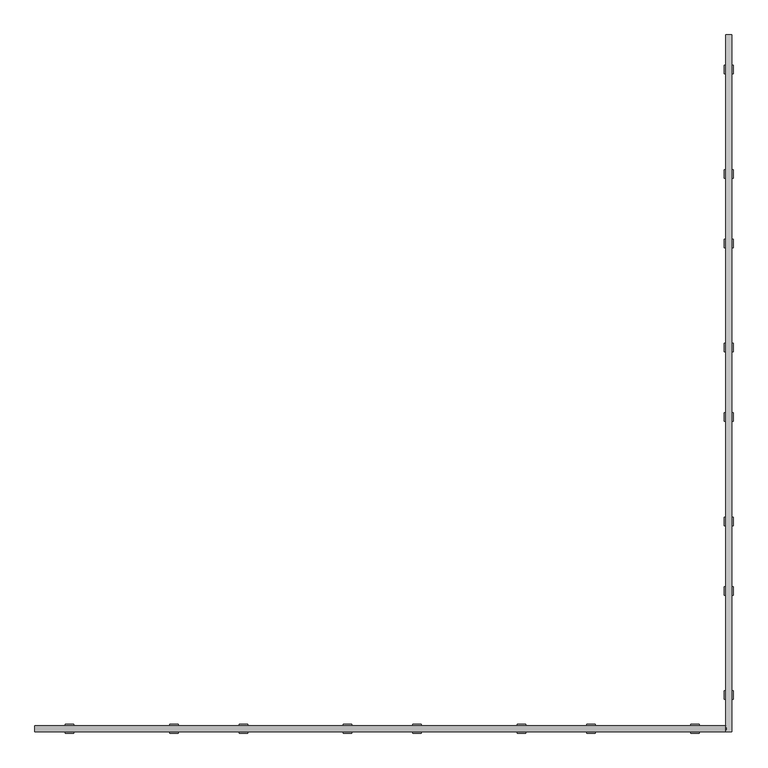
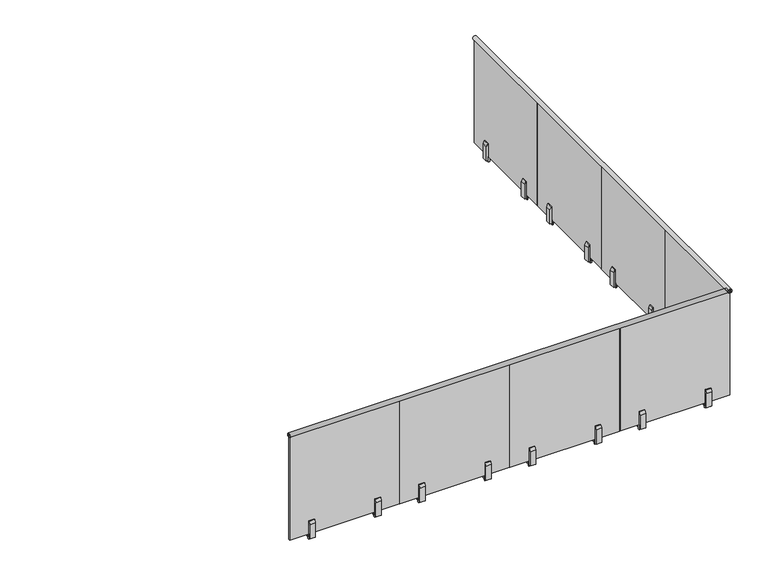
"""IFC4 building model written with IfcOpenShell, lengths in millimetres: railing geometry, VIVA-VISIO-Glass-Steel Surface Mount-Straight."""

from ifc_helpers import new_model, si_unit, point, frame, frame_2d, origin, place, context, project, spatial, polyline, circle_curve, trimmed, segment, composite_curve, outline, extrude, source, transform, mapped, element, save


def railing_d0d42c22(model_context):
    return source(origin(), model_context, "Body", "SweptSolid", [
        extrude(outline(composite_curve([segment(trimmed(circle_curve(frame_2d((-22035.3867549, 4113.6774252)), 3.175), [point((-22033.4817549, 4111.1374252))], [point((-22038.5617549, 4113.6774252))], False, "CARTESIAN"), True, "CONTINUOUS"), segment(polyline([(-22038.5617549, 4113.6774252), (-22038.5617549, 4138.215625), (-22051.2617549, 4138.215625), (-22051.2617549, 4113.7552844)]), True, "CONTINUOUS"), segment(trimmed(circle_curve(frame_2d((-22054.4755651, 4113.7552844)), 3.2138103), [point((-22051.2617549, 4113.7552844))], [point((-22056.4164532, 4111.193736))], False, "CARTESIAN"), True, "CONTINUOUS"), segment(trimmed(circle_curve(frame_2d((-22044.9117549, 4126.3774252)), 19.05), [point((-22056.4164532, 4111.193736))], [point((-22033.4817549, 4111.1374252))], False, "CARTESIAN"), True, "CONTINUOUS")], self_intersect=False)), frame((30452.8112561, 0.0, 0.0), z_axis=(1.0, 0.0, 0.0), x_axis=(0.0, 1.0, 0.0)), (0.0, 0.0, 1.0), 4064.0),
        extrude(outline(composite_curve([segment(trimmed(circle_curve(frame_2d((4113.6774252, 34526.3362561)), 3.175), [point((4111.1374252, 34524.4312561))], [point((4113.6774252, 34529.5112561))], False, "CARTESIAN"), True, "CONTINUOUS"), segment(polyline([(4113.6774252, 34529.5112561), (4138.215625, 34529.5112561), (4138.215625, 34542.2112561), (4113.7552844, 34542.2112561)]), True, "CONTINUOUS"), segment(trimmed(circle_curve(frame_2d((4113.7552844, 34545.4250664)), 3.2138103), [point((4113.7552844, 34542.2112561))], [point((4111.193736, 34547.3659544))], False, "CARTESIAN"), True, "CONTINUOUS"), segment(trimmed(circle_curve(frame_2d((4126.3774252, 34535.8612561)), 19.05), [point((4111.193736, 34547.3659544))], [point((4111.1374252, 34524.4312561))], False, "CARTESIAN"), True, "CONTINUOUS")], self_intersect=False)), frame((0.0, -22063.9617549, 0.0), z_axis=(0.0, 1.0, 0.0), x_axis=(0.0, 0.0, 1.0)), (0.0, 0.0, 1.0), 4102.1),
        extrude(outline(polyline([(34529.5112561, -18191.7317549), (34529.5112561, -18140.9317549), (34542.2112561, -18140.9317549), (34542.2112561, -18191.7317549), (34529.5112561, -18191.7317549)])), frame((0.0, 0.0, 3048.0), z_axis=(0.0, 0.0, 1.0), x_axis=(1.0, 0.0, 0.0)), (0.0, 0.0, 1.0), 50.8),
        extrude(outline(polyline([(3062.2875, 34510.4612561), (3062.2875, 34529.5112561), (3228.975, 34529.5112561), (3228.975, 34521.5737561), (3201.9875, 34510.4612561), (3062.2875, 34510.4612561)])), frame((0.0, -18191.7317549, 0.0), z_axis=(0.0, 1.0, 0.0), x_axis=(0.0, 0.0, 1.0)), (0.0, 0.0, 1.0), 50.8),
        extrude(outline(polyline([(3062.2875, 34561.2612561), (3201.9875, 34561.2612561), (3228.975, 34550.1487561), (3228.975, 34542.2112561), (3062.2875, 34542.2112561), (3062.2875, 34561.2612561)])), frame((0.0, -18191.7317549, 0.0), z_axis=(0.0, 1.0, 0.0), x_axis=(0.0, 0.0, 1.0)), (0.0, 0.0, 1.0), 50.8),
        extrude(outline(polyline([(34529.5112561, -18980.6537083), (34529.5112561, -17964.6537083), (34542.2112561, -17964.6537083), (34542.2112561, -18980.6537083), (34529.5112561, -18980.6537083)])), frame((0.0, 0.0, 3098.8), z_axis=(0.0, 0.0, 1.0), x_axis=(1.0, 0.0, 0.0)), (0.0, 0.0, 1.0), 1041.2299252),
        extrude(outline(polyline([(34529.5112561, -18805.1417549), (34529.5112561, -18754.3417549), (34542.2112561, -18754.3417549), (34542.2112561, -18805.1417549), (34529.5112561, -18805.1417549)])), frame((0.0, 0.0, 3048.0), z_axis=(0.0, 0.0, 1.0), x_axis=(1.0, 0.0, 0.0)), (0.0, 0.0, 1.0), 50.8),
        extrude(outline(polyline([(3062.2875, 34510.4612561), (3062.2875, 34529.5112561), (3228.975, 34529.5112561), (3228.975, 34521.5737561), (3201.9875, 34510.4612561), (3062.2875, 34510.4612561)])), frame((0.0, -18805.1417549, 0.0), z_axis=(0.0, 1.0, 0.0), x_axis=(0.0, 0.0, 1.0)), (0.0, 0.0, 1.0), 50.8),
        extrude(outline(polyline([(3062.2875, 34561.2612561), (3201.9875, 34561.2612561), (3228.975, 34550.1487561), (3228.975, 34542.2112561), (3062.2875, 34542.2112561), (3062.2875, 34561.2612561)])), frame((0.0, -18805.1417549, 0.0), z_axis=(0.0, 1.0, 0.0), x_axis=(0.0, 0.0, 1.0)), (0.0, 0.0, 1.0), 50.8),
        extrude(outline(polyline([(34529.5112561, -19214.0817549), (34529.5112561, -19163.2817549), (34542.2112561, -19163.2817549), (34542.2112561, -19214.0817549), (34529.5112561, -19214.0817549)])), frame((0.0, 0.0, 3048.0), z_axis=(0.0, 0.0, 1.0), x_axis=(1.0, 0.0, 0.0)), (0.0, 0.0, 1.0), 50.8),
        extrude(outline(polyline([(3062.2875, 34510.4612561), (3062.2875, 34529.5112561), (3228.975, 34529.5112561), (3228.975, 34521.5737561), (3201.9875, 34510.4612561), (3062.2875, 34510.4612561)])), frame((0.0, -19214.0817549, 0.0), z_axis=(0.0, 1.0, 0.0), x_axis=(0.0, 0.0, 1.0)), (0.0, 0.0, 1.0), 50.8),
        extrude(outline(polyline([(3062.2875, 34561.2612561), (3201.9875, 34561.2612561), (3228.975, 34550.1487561), (3228.975, 34542.2112561), (3062.2875, 34542.2112561), (3062.2875, 34561.2612561)])), frame((0.0, -19214.0817549, 0.0), z_axis=(0.0, 1.0, 0.0), x_axis=(0.0, 0.0, 1.0)), (0.0, 0.0, 1.0), 50.8),
        extrude(outline(polyline([(34529.5112561, -20003.0037083), (34529.5112561, -18987.0037083), (34542.2112561, -18987.0037083), (34542.2112561, -20003.0037083), (34529.5112561, -20003.0037083)])), frame((0.0, 0.0, 3098.8), z_axis=(0.0, 0.0, 1.0), x_axis=(1.0, 0.0, 0.0)), (0.0, 0.0, 1.0), 1041.2299252),
        extrude(outline(polyline([(34529.5112561, -19827.4917549), (34529.5112561, -19776.6917549), (34542.2112561, -19776.6917549), (34542.2112561, -19827.4917549), (34529.5112561, -19827.4917549)])), frame((0.0, 0.0, 3048.0), z_axis=(0.0, 0.0, 1.0), x_axis=(1.0, 0.0, 0.0)), (0.0, 0.0, 1.0), 50.8),
        extrude(outline(polyline([(3062.2875, 34510.4612561), (3062.2875, 34529.5112561), (3228.975, 34529.5112561), (3228.975, 34521.5737561), (3201.9875, 34510.4612561), (3062.2875, 34510.4612561)])), frame((0.0, -19827.4917549, 0.0), z_axis=(0.0, 1.0, 0.0), x_axis=(0.0, 0.0, 1.0)), (0.0, 0.0, 1.0), 50.8),
        extrude(outline(polyline([(3062.2875, 34561.2612561), (3201.9875, 34561.2612561), (3228.975, 34550.1487561), (3228.975, 34542.2112561), (3062.2875, 34542.2112561), (3062.2875, 34561.2612561)])), frame((0.0, -19827.4917549, 0.0), z_axis=(0.0, 1.0, 0.0), x_axis=(0.0, 0.0, 1.0)), (0.0, 0.0, 1.0), 50.8),
        extrude(outline(polyline([(34529.5112561, -20236.4317549), (34529.5112561, -20185.6317549), (34542.2112561, -20185.6317549), (34542.2112561, -20236.4317549), (34529.5112561, -20236.4317549)])), frame((0.0, 0.0, 3048.0), z_axis=(0.0, 0.0, 1.0), x_axis=(1.0, 0.0, 0.0)), (0.0, 0.0, 1.0), 50.8),
        extrude(outline(polyline([(3062.2875, 34510.4612561), (3062.2875, 34529.5112561), (3228.975, 34529.5112561), (3228.975, 34521.5737561), (3201.9875, 34510.4612561), (3062.2875, 34510.4612561)])), frame((0.0, -20236.4317549, 0.0), z_axis=(0.0, 1.0, 0.0), x_axis=(0.0, 0.0, 1.0)), (0.0, 0.0, 1.0), 50.8),
        extrude(outline(polyline([(3062.2875, 34561.2612561), (3201.9875, 34561.2612561), (3228.975, 34550.1487561), (3228.975, 34542.2112561), (3062.2875, 34542.2112561), (3062.2875, 34561.2612561)])), frame((0.0, -20236.4317549, 0.0), z_axis=(0.0, 1.0, 0.0), x_axis=(0.0, 0.0, 1.0)), (0.0, 0.0, 1.0), 50.8),
        extrude(outline(polyline([(34529.5112561, -21025.3537083), (34529.5112561, -20009.3537083), (34542.2112561, -20009.3537083), (34542.2112561, -21025.3537083), (34529.5112561, -21025.3537083)])), frame((0.0, 0.0, 3098.8), z_axis=(0.0, 0.0, 1.0), x_axis=(1.0, 0.0, 0.0)), (0.0, 0.0, 1.0), 1041.2299252),
        extrude(outline(polyline([(34529.5112561, -20849.8417549), (34529.5112561, -20799.0417549), (34542.2112561, -20799.0417549), (34542.2112561, -20849.8417549), (34529.5112561, -20849.8417549)])), frame((0.0, 0.0, 3048.0), z_axis=(0.0, 0.0, 1.0), x_axis=(1.0, 0.0, 0.0)), (0.0, 0.0, 1.0), 50.8),
        extrude(outline(polyline([(3062.2875, 34510.4612561), (3062.2875, 34529.5112561), (3228.975, 34529.5112561), (3228.975, 34521.5737561), (3201.9875, 34510.4612561), (3062.2875, 34510.4612561)])), frame((0.0, -20849.8417549, 0.0), z_axis=(0.0, 1.0, 0.0), x_axis=(0.0, 0.0, 1.0)), (0.0, 0.0, 1.0), 50.8),
        extrude(outline(polyline([(3062.2875, 34561.2612561), (3201.9875, 34561.2612561), (3228.975, 34550.1487561), (3228.975, 34542.2112561), (3062.2875, 34542.2112561), (3062.2875, 34561.2612561)])), frame((0.0, -20849.8417549, 0.0), z_axis=(0.0, 1.0, 0.0), x_axis=(0.0, 0.0, 1.0)), (0.0, 0.0, 1.0), 50.8),
        extrude(outline(polyline([(34529.5112561, -21258.7817549), (34529.5112561, -21207.9817549), (34542.2112561, -21207.9817549), (34542.2112561, -21258.7817549), (34529.5112561, -21258.7817549)])), frame((0.0, 0.0, 3048.0), z_axis=(0.0, 0.0, 1.0), x_axis=(1.0, 0.0, 0.0)), (0.0, 0.0, 1.0), 50.8),
        extrude(outline(polyline([(3062.2875, 34510.4612561), (3062.2875, 34529.5112561), (3228.975, 34529.5112561), (3228.975, 34521.5737561), (3201.9875, 34510.4612561), (3062.2875, 34510.4612561)])), frame((0.0, -21258.7817549, 0.0), z_axis=(0.0, 1.0, 0.0), x_axis=(0.0, 0.0, 1.0)), (0.0, 0.0, 1.0), 50.8),
        extrude(outline(polyline([(3062.2875, 34561.2612561), (3201.9875, 34561.2612561), (3228.975, 34550.1487561), (3228.975, 34542.2112561), (3062.2875, 34542.2112561), (3062.2875, 34561.2612561)])), frame((0.0, -21258.7817549, 0.0), z_axis=(0.0, 1.0, 0.0), x_axis=(0.0, 0.0, 1.0)), (0.0, 0.0, 1.0), 50.8),
        extrude(outline(polyline([(34529.5112561, -22047.7037083), (34529.5112561, -21031.7037083), (34542.2112561, -21031.7037083), (34542.2112561, -22047.7037083), (34529.5112561, -22047.7037083)])), frame((0.0, 0.0, 3098.8), z_axis=(0.0, 0.0, 1.0), x_axis=(1.0, 0.0, 0.0)), (0.0, 0.0, 1.0), 1041.2299252),
        extrude(outline(polyline([(34529.5112561, -21872.1917549), (34529.5112561, -21821.3917549), (34542.2112561, -21821.3917549), (34542.2112561, -21872.1917549), (34529.5112561, -21872.1917549)])), frame((0.0, 0.0, 3048.0), z_axis=(0.0, 0.0, 1.0), x_axis=(1.0, 0.0, 0.0)), (0.0, 0.0, 1.0), 50.8),
        extrude(outline(polyline([(3062.2875, 34510.4612561), (3062.2875, 34529.5112561), (3228.975, 34529.5112561), (3228.975, 34521.5737561), (3201.9875, 34510.4612561), (3062.2875, 34510.4612561)])), frame((0.0, -21872.1917549, 0.0), z_axis=(0.0, 1.0, 0.0), x_axis=(0.0, 0.0, 1.0)), (0.0, 0.0, 1.0), 50.8),
        extrude(outline(polyline([(3062.2875, 34561.2612561), (3201.9875, 34561.2612561), (3228.975, 34550.1487561), (3228.975, 34542.2112561), (3062.2875, 34542.2112561), (3062.2875, 34561.2612561)])), frame((0.0, -21872.1917549, 0.0), z_axis=(0.0, 1.0, 0.0), x_axis=(0.0, 0.0, 1.0)), (0.0, 0.0, 1.0), 50.8),
        extrude(outline(polyline([(34312.3412561, -22038.5617549), (34363.1412561, -22038.5617549), (34363.1412561, -22051.2617549), (34312.3412561, -22051.2617549), (34312.3412561, -22038.5617549)])), frame((0.0, 0.0, 3048.0), z_axis=(0.0, 0.0, 1.0), x_axis=(1.0, 0.0, 0.0)), (0.0, 0.0, 1.0), 50.8),
        extrude(outline(polyline([(-22019.5117549, 3062.2875), (-22038.5617549, 3062.2875), (-22038.5617549, 3228.975), (-22030.6242549, 3228.975), (-22019.5117549, 3201.9875), (-22019.5117549, 3062.2875)])), frame((34312.3412561, 0.0, 0.0), z_axis=(1.0, 0.0, 0.0), x_axis=(0.0, 1.0, 0.0)), (0.0, 0.0, 1.0), 50.8),
        extrude(outline(polyline([(-22070.3117549, 3062.2875), (-22070.3117549, 3201.9875), (-22059.1992549, 3228.975), (-22051.2617549, 3228.975), (-22051.2617549, 3062.2875), (-22070.3117549, 3062.2875)])), frame((34312.3412561, 0.0, 0.0), z_axis=(1.0, 0.0, 0.0), x_axis=(0.0, 1.0, 0.0)), (0.0, 0.0, 1.0), 50.8),
        extrude(outline(polyline([(33523.4193027, -22038.5617549), (34539.4193027, -22038.5617549), (34539.4193027, -22051.2617549), (33523.4193027, -22051.2617549), (33523.4193027, -22038.5617549)])), frame((0.0, 0.0, 3098.8), z_axis=(0.0, 0.0, 1.0), x_axis=(1.0, 0.0, 0.0)), (0.0, 0.0, 1.0), 1041.2299252),
        extrude(outline(polyline([(33698.9312561, -22038.5617549), (33749.7312561, -22038.5617549), (33749.7312561, -22051.2617549), (33698.9312561, -22051.2617549), (33698.9312561, -22038.5617549)])), frame((0.0, 0.0, 3048.0), z_axis=(0.0, 0.0, 1.0), x_axis=(1.0, 0.0, 0.0)), (0.0, 0.0, 1.0), 50.8),
        extrude(outline(polyline([(-22019.5117549, 3062.2875), (-22038.5617549, 3062.2875), (-22038.5617549, 3228.975), (-22030.6242549, 3228.975), (-22019.5117549, 3201.9875), (-22019.5117549, 3062.2875)])), frame((33698.9312561, 0.0, 0.0), z_axis=(1.0, 0.0, 0.0), x_axis=(0.0, 1.0, 0.0)), (0.0, 0.0, 1.0), 50.8),
        extrude(outline(polyline([(-22070.3117549, 3062.2875), (-22070.3117549, 3201.9875), (-22059.1992549, 3228.975), (-22051.2617549, 3228.975), (-22051.2617549, 3062.2875), (-22070.3117549, 3062.2875)])), frame((33698.9312561, 0.0, 0.0), z_axis=(1.0, 0.0, 0.0), x_axis=(0.0, 1.0, 0.0)), (0.0, 0.0, 1.0), 50.8),
        extrude(outline(polyline([(33289.9912561, -22038.5617549), (33340.7912561, -22038.5617549), (33340.7912561, -22051.2617549), (33289.9912561, -22051.2617549), (33289.9912561, -22038.5617549)])), frame((0.0, 0.0, 3048.0), z_axis=(0.0, 0.0, 1.0), x_axis=(1.0, 0.0, 0.0)), (0.0, 0.0, 1.0), 50.8),
        extrude(outline(polyline([(-22019.5117549, 3062.2875), (-22038.5617549, 3062.2875), (-22038.5617549, 3228.975), (-22030.6242549, 3228.975), (-22019.5117549, 3201.9875), (-22019.5117549, 3062.2875)])), frame((33289.9912561, 0.0, 0.0), z_axis=(1.0, 0.0, 0.0), x_axis=(0.0, 1.0, 0.0)), (0.0, 0.0, 1.0), 50.8),
        extrude(outline(polyline([(-22070.3117549, 3062.2875), (-22070.3117549, 3201.9875), (-22059.1992549, 3228.975), (-22051.2617549, 3228.975), (-22051.2617549, 3062.2875), (-22070.3117549, 3062.2875)])), frame((33289.9912561, 0.0, 0.0), z_axis=(1.0, 0.0, 0.0), x_axis=(0.0, 1.0, 0.0)), (0.0, 0.0, 1.0), 50.8),
        extrude(outline(polyline([(32501.0693027, -22038.5617549), (33517.0693027, -22038.5617549), (33517.0693027, -22051.2617549), (32501.0693027, -22051.2617549), (32501.0693027, -22038.5617549)])), frame((0.0, 0.0, 3098.8), z_axis=(0.0, 0.0, 1.0), x_axis=(1.0, 0.0, 0.0)), (0.0, 0.0, 1.0), 1041.2299252),
        extrude(outline(polyline([(32676.5812561, -22038.5617549), (32727.3812561, -22038.5617549), (32727.3812561, -22051.2617549), (32676.5812561, -22051.2617549), (32676.5812561, -22038.5617549)])), frame((0.0, 0.0, 3048.0), z_axis=(0.0, 0.0, 1.0), x_axis=(1.0, 0.0, 0.0)), (0.0, 0.0, 1.0), 50.8),
        extrude(outline(polyline([(-22019.5117549, 3062.2875), (-22038.5617549, 3062.2875), (-22038.5617549, 3228.975), (-22030.6242549, 3228.975), (-22019.5117549, 3201.9875), (-22019.5117549, 3062.2875)])), frame((32676.5812561, 0.0, 0.0), z_axis=(1.0, 0.0, 0.0), x_axis=(0.0, 1.0, 0.0)), (0.0, 0.0, 1.0), 50.8),
        extrude(outline(polyline([(-22070.3117549, 3062.2875), (-22070.3117549, 3201.9875), (-22059.1992549, 3228.975), (-22051.2617549, 3228.975), (-22051.2617549, 3062.2875), (-22070.3117549, 3062.2875)])), frame((32676.5812561, 0.0, 0.0), z_axis=(1.0, 0.0, 0.0), x_axis=(0.0, 1.0, 0.0)), (0.0, 0.0, 1.0), 50.8),
        extrude(outline(polyline([(32267.6412561, -22038.5617549), (32318.4412561, -22038.5617549), (32318.4412561, -22051.2617549), (32267.6412561, -22051.2617549), (32267.6412561, -22038.5617549)])), frame((0.0, 0.0, 3048.0), z_axis=(0.0, 0.0, 1.0), x_axis=(1.0, 0.0, 0.0)), (0.0, 0.0, 1.0), 50.8),
        extrude(outline(polyline([(-22019.5117549, 3062.2875), (-22038.5617549, 3062.2875), (-22038.5617549, 3228.975), (-22030.6242549, 3228.975), (-22019.5117549, 3201.9875), (-22019.5117549, 3062.2875)])), frame((32267.6412561, 0.0, 0.0), z_axis=(1.0, 0.0, 0.0), x_axis=(0.0, 1.0, 0.0)), (0.0, 0.0, 1.0), 50.8),
        extrude(outline(polyline([(-22070.3117549, 3062.2875), (-22070.3117549, 3201.9875), (-22059.1992549, 3228.975), (-22051.2617549, 3228.975), (-22051.2617549, 3062.2875), (-22070.3117549, 3062.2875)])), frame((32267.6412561, 0.0, 0.0), z_axis=(1.0, 0.0, 0.0), x_axis=(0.0, 1.0, 0.0)), (0.0, 0.0, 1.0), 50.8),
        extrude(outline(polyline([(31478.7193027, -22038.5617549), (32494.7193027, -22038.5617549), (32494.7193027, -22051.2617549), (31478.7193027, -22051.2617549), (31478.7193027, -22038.5617549)])), frame((0.0, 0.0, 3098.8), z_axis=(0.0, 0.0, 1.0), x_axis=(1.0, 0.0, 0.0)), (0.0, 0.0, 1.0), 1041.2299252),
        extrude(outline(polyline([(31654.2312561, -22038.5617549), (31705.0312561, -22038.5617549), (31705.0312561, -22051.2617549), (31654.2312561, -22051.2617549), (31654.2312561, -22038.5617549)])), frame((0.0, 0.0, 3048.0), z_axis=(0.0, 0.0, 1.0), x_axis=(1.0, 0.0, 0.0)), (0.0, 0.0, 1.0), 50.8),
        extrude(outline(polyline([(-22019.5117549, 3062.2875), (-22038.5617549, 3062.2875), (-22038.5617549, 3228.975), (-22030.6242549, 3228.975), (-22019.5117549, 3201.9875), (-22019.5117549, 3062.2875)])), frame((31654.2312561, 0.0, 0.0), z_axis=(1.0, 0.0, 0.0), x_axis=(0.0, 1.0, 0.0)), (0.0, 0.0, 1.0), 50.8),
        extrude(outline(polyline([(-22070.3117549, 3062.2875), (-22070.3117549, 3201.9875), (-22059.1992549, 3228.975), (-22051.2617549, 3228.975), (-22051.2617549, 3062.2875), (-22070.3117549, 3062.2875)])), frame((31654.2312561, 0.0, 0.0), z_axis=(1.0, 0.0, 0.0), x_axis=(0.0, 1.0, 0.0)), (0.0, 0.0, 1.0), 50.8),
        extrude(outline(polyline([(31245.2912561, -22038.5617549), (31296.0912561, -22038.5617549), (31296.0912561, -22051.2617549), (31245.2912561, -22051.2617549), (31245.2912561, -22038.5617549)])), frame((0.0, 0.0, 3048.0), z_axis=(0.0, 0.0, 1.0), x_axis=(1.0, 0.0, 0.0)), (0.0, 0.0, 1.0), 50.8),
        extrude(outline(polyline([(-22019.5117549, 3062.2875), (-22038.5617549, 3062.2875), (-22038.5617549, 3228.975), (-22030.6242549, 3228.975), (-22019.5117549, 3201.9875), (-22019.5117549, 3062.2875)])), frame((31245.2912561, 0.0, 0.0), z_axis=(1.0, 0.0, 0.0), x_axis=(0.0, 1.0, 0.0)), (0.0, 0.0, 1.0), 50.8),
        extrude(outline(polyline([(-22070.3117549, 3062.2875), (-22070.3117549, 3201.9875), (-22059.1992549, 3228.975), (-22051.2617549, 3228.975), (-22051.2617549, 3062.2875), (-22070.3117549, 3062.2875)])), frame((31245.2912561, 0.0, 0.0), z_axis=(1.0, 0.0, 0.0), x_axis=(0.0, 1.0, 0.0)), (0.0, 0.0, 1.0), 50.8),
        extrude(outline(polyline([(30456.3693027, -22038.5617549), (31472.3693027, -22038.5617549), (31472.3693027, -22051.2617549), (30456.3693027, -22051.2617549), (30456.3693027, -22038.5617549)])), frame((0.0, 0.0, 3098.8), z_axis=(0.0, 0.0, 1.0), x_axis=(1.0, 0.0, 0.0)), (0.0, 0.0, 1.0), 1041.2299252),
        extrude(outline(polyline([(30631.8812561, -22038.5617549), (30682.6812561, -22038.5617549), (30682.6812561, -22051.2617549), (30631.8812561, -22051.2617549), (30631.8812561, -22038.5617549)])), frame((0.0, 0.0, 3048.0), z_axis=(0.0, 0.0, 1.0), x_axis=(1.0, 0.0, 0.0)), (0.0, 0.0, 1.0), 50.8),
        extrude(outline(polyline([(-22019.5117549, 3062.2875), (-22038.5617549, 3062.2875), (-22038.5617549, 3228.975), (-22030.6242549, 3228.975), (-22019.5117549, 3201.9875), (-22019.5117549, 3062.2875)])), frame((30631.8812561, 0.0, 0.0), z_axis=(1.0, 0.0, 0.0), x_axis=(0.0, 1.0, 0.0)), (0.0, 0.0, 1.0), 50.8),
        extrude(outline(polyline([(-22070.3117549, 3062.2875), (-22070.3117549, 3201.9875), (-22059.1992549, 3228.975), (-22051.2617549, 3228.975), (-22051.2617549, 3062.2875), (-22070.3117549, 3062.2875)])), frame((30631.8812561, 0.0, 0.0), z_axis=(1.0, 0.0, 0.0), x_axis=(0.0, 1.0, 0.0)), (0.0, 0.0, 1.0), 50.8),
    ])


if __name__ == "__main__":
    model = new_model("IFC4")
    model_context = context("Model", 3, world=origin())
    ifc_project = project(units=[si_unit("LENGTHUNIT", "METRE", prefix="MILLI")], contexts=[model_context])
    site = spatial("IfcSite", under=ifc_project)
    building = spatial("IfcBuilding", under=site)
    placement = place(None, origin())
    railing_shape = railing_d0d42c22(model_context)
    element("IfcRailing", 1, ObjectType="VIVA-VISIO-Glass-Steel Surface Mount-Straight", at=placement, inside=building, context=model_context, shape_type="MappedRepresentation", body=[
        mapped(railing_shape, transform((0.0, 0.0, 0.0), x_axis=(1.0, 0.0, 0.0), y_axis=(0.0, 1.0, 0.0), z_axis=(0.0, 0.0, 1.0))),
    ])
    save(model, "model.ifc")
